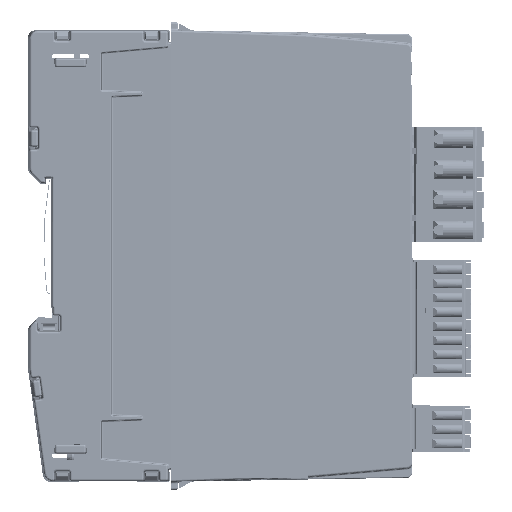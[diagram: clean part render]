
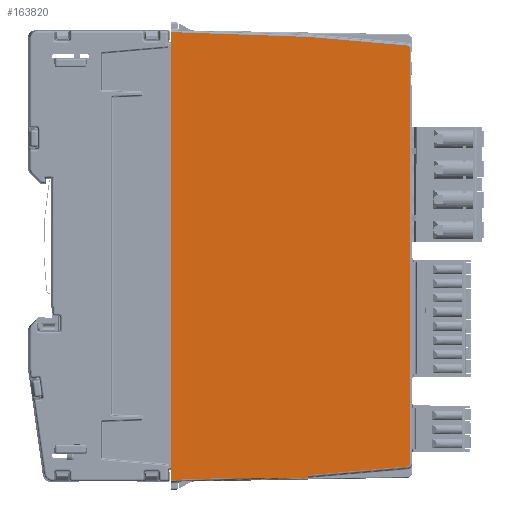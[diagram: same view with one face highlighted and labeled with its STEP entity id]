
A CAD part, left-side view. The second image highlights one B-rep face of the part: STEP entity #163820.
In plain terms, the highlighted planar face has unit normal (-1, -0.018, 0).
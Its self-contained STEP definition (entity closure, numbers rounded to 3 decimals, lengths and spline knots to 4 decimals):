
#15732=FACE_OUTER_BOUND('',#24810,.T.);
#24810=EDGE_LOOP('',(#138168,#138169,#138170,#138171,#138172,#138173,#138174,
#138175,#138176,#138177,#138178,#138179,#138180));
#40809=LINE('',#279192,#57298);
#40822=LINE('',#279264,#57311);
#40879=LINE('',#279492,#57368);
#41191=LINE('',#281282,#57680);
#41192=LINE('',#281284,#57681);
#41193=LINE('',#281288,#57682);
#41194=LINE('',#281292,#57683);
#41195=LINE('',#281294,#57684);
#41196=LINE('',#281296,#57685);
#41197=LINE('',#281298,#57686);
#41198=LINE('',#281299,#57687);
#57298=VECTOR('',#215563,0.3937);
#57311=VECTOR('',#215604,0.3937);
#57368=VECTOR('',#215799,39.3701);
#57680=VECTOR('',#216489,39.3701);
#57681=VECTOR('',#216490,39.3701);
#57682=VECTOR('',#216493,39.3701);
#57683=VECTOR('',#216496,39.3701);
#57684=VECTOR('',#216497,39.3701);
#57685=VECTOR('',#216498,39.3701);
#57686=VECTOR('',#216499,39.3701);
#57687=VECTOR('',#216500,39.3701);
#60035=ELLIPSE('',#176361,0.0315,0.0315);
#60036=ELLIPSE('',#176362,0.0315,0.0315);
#73181=VERTEX_POINT('',#279188);
#73183=VERTEX_POINT('',#279191);
#73205=VERTEX_POINT('',#279259);
#73263=VERTEX_POINT('',#279491);
#73620=VERTEX_POINT('',#281281);
#73621=VERTEX_POINT('',#281283);
#73622=VERTEX_POINT('',#281285);
#73623=VERTEX_POINT('',#281287);
#73624=VERTEX_POINT('',#281289);
#73625=VERTEX_POINT('',#281291);
#73626=VERTEX_POINT('',#281293);
#73627=VERTEX_POINT('',#281295);
#73628=VERTEX_POINT('',#281297);
#94705=EDGE_CURVE('',#73181,#73183,#40809,.T.);
#94732=EDGE_CURVE('',#73183,#73205,#40822,.T.);
#94825=EDGE_CURVE('',#73263,#73205,#40879,.T.);
#95337=EDGE_CURVE('',#73181,#73620,#41191,.T.);
#95338=EDGE_CURVE('',#73620,#73621,#41192,.T.);
#95339=EDGE_CURVE('',#73621,#73622,#60035,.T.);
#95340=EDGE_CURVE('',#73622,#73623,#41193,.T.);
#95341=EDGE_CURVE('',#73623,#73624,#60036,.T.);
#95342=EDGE_CURVE('',#73624,#73625,#41194,.T.);
#95343=EDGE_CURVE('',#73625,#73626,#41195,.T.);
#95344=EDGE_CURVE('',#73626,#73627,#41196,.T.);
#95345=EDGE_CURVE('',#73628,#73627,#41197,.T.);
#95346=EDGE_CURVE('',#73628,#73263,#41198,.T.);
#138168=ORIENTED_EDGE('',*,*,#95337,.T.);
#138169=ORIENTED_EDGE('',*,*,#95338,.T.);
#138170=ORIENTED_EDGE('',*,*,#95339,.T.);
#138171=ORIENTED_EDGE('',*,*,#95340,.T.);
#138172=ORIENTED_EDGE('',*,*,#95341,.T.);
#138173=ORIENTED_EDGE('',*,*,#95342,.T.);
#138174=ORIENTED_EDGE('',*,*,#95343,.T.);
#138175=ORIENTED_EDGE('',*,*,#95344,.T.);
#138176=ORIENTED_EDGE('',*,*,#95345,.F.);
#138177=ORIENTED_EDGE('',*,*,#95346,.T.);
#138178=ORIENTED_EDGE('',*,*,#94825,.T.);
#138179=ORIENTED_EDGE('',*,*,#94732,.F.);
#138180=ORIENTED_EDGE('',*,*,#94705,.F.);
#147379=PLANE('',#176360);
#163820=ADVANCED_FACE('',(#15732),#147379,.T.);
#176360=AXIS2_PLACEMENT_3D('',#281280,#216487,#216488);
#176361=AXIS2_PLACEMENT_3D('',#281286,#216491,#216492);
#176362=AXIS2_PLACEMENT_3D('',#281290,#216494,#216495);
#215563=DIRECTION('',(0.,0.,-1.));
#215604=DIRECTION('',(-0.017,1.,0.));
#215799=DIRECTION('',(0.017,-0.999,0.035));
#216487=DIRECTION('center_axis',(-1.,-0.017,
0.));
#216488=DIRECTION('ref_axis',(-0.017,1.,0.));
#216489=DIRECTION('',(0.017,-0.999,0.035));
#216490=DIRECTION('',(0.017,-0.996,0.087));
#216491=DIRECTION('center_axis',(-1.,-0.017,
0.));
#216492=DIRECTION('ref_axis',(0.017,-1.,0.));
#216493=DIRECTION('',(0.,0.,1.));
#216494=DIRECTION('center_axis',(-1.,-0.017,
0.));
#216495=DIRECTION('ref_axis',(0.017,-1.,0.));
#216496=DIRECTION('',(-0.017,0.996,0.087));
#216497=DIRECTION('',(-0.017,0.999,0.035));
#216498=DIRECTION('',(0.,0.,-1.));
#216499=DIRECTION('',(0.,0.,1.));
#216500=DIRECTION('',(0.,0.,-1.));
#279188=CARTESIAN_POINT('',(0.0005,-2.2096,-4.1958));
#279191=CARTESIAN_POINT('',(0.0005,-2.2096,-4.2206));
#279192=CARTESIAN_POINT('',(0.0005,-2.2096,-3.155));
#279259=CARTESIAN_POINT('',(-0.0119,-1.4997,-4.2206));
#279264=CARTESIAN_POINT('',(-0.0131,-1.4351,-4.2206));
#279491=CARTESIAN_POINT('',(-0.0227,-0.8827,-4.2421));
#279492=CARTESIAN_POINT('',(-0.0282,-0.5654,-4.2532));
#281280=CARTESIAN_POINT('Origin',(-0.0296,-0.489,
-2.0669));
#281281=CARTESIAN_POINT('',(0.0007,-2.2205,-4.1954));
#281282=CARTESIAN_POINT('',(-0.0282,-0.5654,-4.2532));
#281283=CARTESIAN_POINT('',(0.0174,-3.1772,-4.1117));
#281284=CARTESIAN_POINT('',(-0.0261,-0.6869,-4.3296));
#281285=CARTESIAN_POINT('',(0.0179,-3.2059,-4.0803));
#281286=CARTESIAN_POINT('Origin',(0.0173,-3.1744,
-4.0803));
#281287=CARTESIAN_POINT('',(0.0179,-3.2059,-0.0535));
#281288=CARTESIAN_POINT('',(0.0179,-3.2059,-0.0535));
#281289=CARTESIAN_POINT('',(0.0174,-3.1772,-0.0221));
#281290=CARTESIAN_POINT('Origin',(0.0173,-3.1744,
-0.0535));
#281291=CARTESIAN_POINT('',(0.0007,-2.2205,0.0616));
#281292=CARTESIAN_POINT('',(-0.0261,-0.6869,0.1957));
#281293=CARTESIAN_POINT('',(-0.0227,-0.8827,0.1083));
#281294=CARTESIAN_POINT('',(-0.0282,-0.5654,0.1194));
#281295=CARTESIAN_POINT('',(-0.0227,-0.8827,-0.0312));
#281296=CARTESIAN_POINT('',(-0.0227,-0.8827,0.128));
#281297=CARTESIAN_POINT('',(-0.0227,-0.8827,-4.1027));
#281298=CARTESIAN_POINT('',(-0.0227,-0.8827,-7.5932));
#281299=CARTESIAN_POINT('',(-0.0227,-0.8827,0.128));
